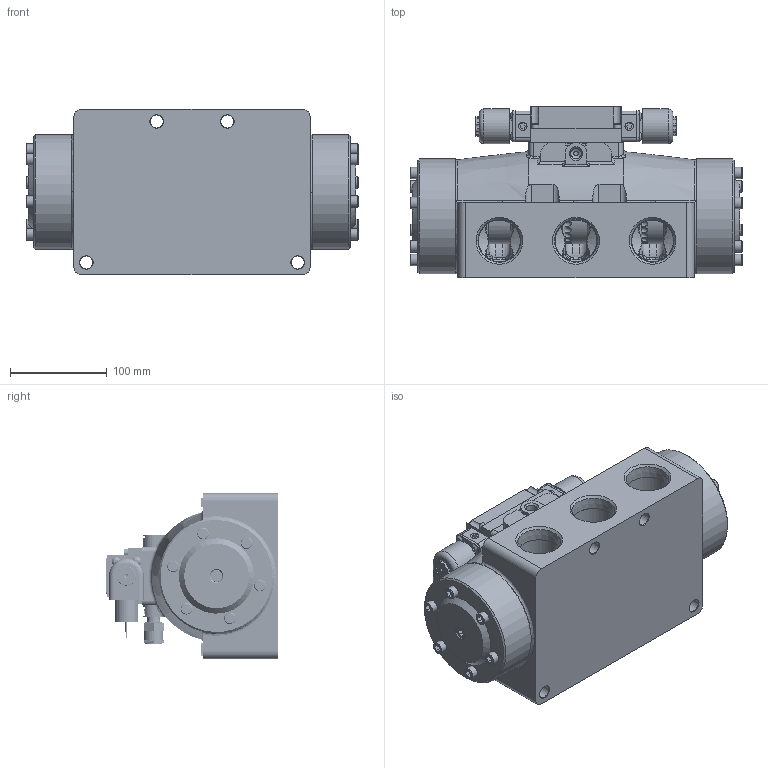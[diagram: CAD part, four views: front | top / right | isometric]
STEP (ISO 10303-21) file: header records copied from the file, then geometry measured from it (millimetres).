
FILE_DESCRIPTION(/* description */ (''),/* implementation_level */ '2;1');
FILE_NAME(/* name */ 'D:\Website Files\stp\Valves\Standard\ESS\ESS12XZ.stp',/* time_stamp */ '2016-10-26T09:47:36-04:00',/* author */ ('RMcKenna'),/* organization */ (''),/* preprocessor_version */ 'ST-DEVELOPER v15.6',/* originating_system */ 'Autodesk Inventor 2015',/* authorisation */ '');
FILE_SCHEMA (('AUTOMOTIVE_DESIGN { 1 0 10303 214 3 1 1 }'));
Products named in the file (1): Part81
Bounding box: 343.84 x 177.77 x 171.45 mm (x, y, z)
Volume: 4505943.1 mm3; surface area: 574945.7 mm2
Topology: 2 solids, 61 shells, 3039 faces, 7488 edges, 4825 vertices
Faces by surface type: plane 1365, cylinder 841, cone 350, torus 237, bspline 236, sphere 10
Full cylindrical faces by diameter (mm): 1.3 x2, 1.5 x4, 1.524 x6, 2.007 x4, 2.032 x22, 2.261 x2, 2.35 x8, 2.778 x2, 2.8 x2, 2.819 x2, 3 x8, 3.048 x2, 3.175 x8, 3.4 x2, 3.683 x12, 3.861 x2, 4.191 x4, 4.305 x2, 4.366 x2, 4.369 x3, 4.762 x2, 4.763 x5, 4.826 x12, 4.953 x2, 5.15 x8, 5.156 x8, 5.159 x4, 5.5 x2, 5.944 x2, 6.35 x1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
Entity records: 97237 total; most frequent: CARTESIAN_POINT 27434, DIRECTION 13595, ORIENTED_EDGE 13038, EDGE_CURVE 6515, AXIS2_PLACEMENT_3D 5292, VERTEX_POINT 4523, EDGE_LOOP 4086, FACE_OUTER_BOUND 3037
